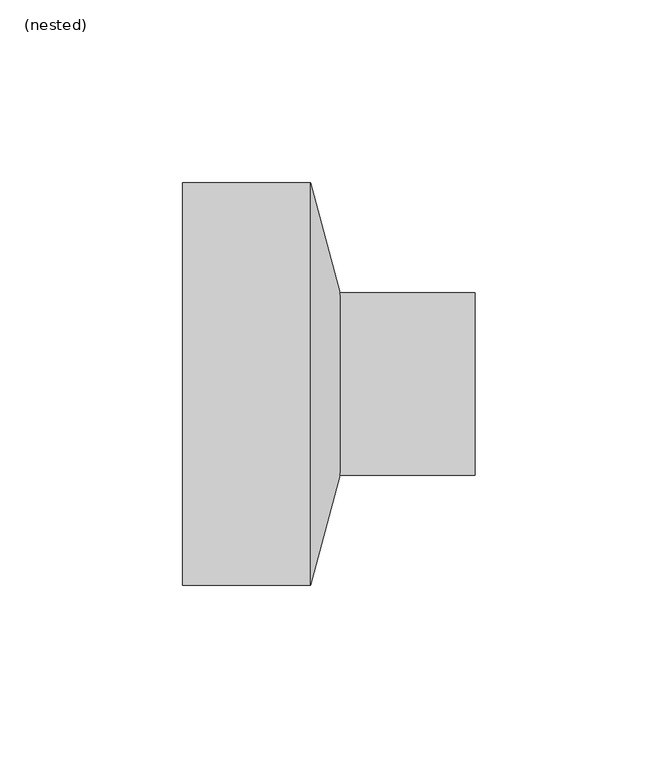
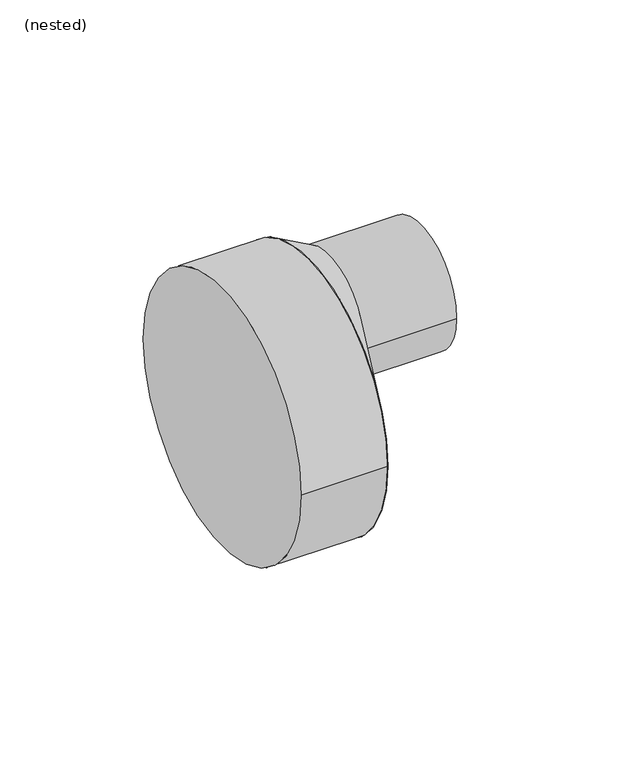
"""IFC4 building model written with IfcOpenShell, lengths in millimetres: pipe fitting geometry, NLRS_52_PIF_UN_PE verloop excentrisch, kort_SH_geb : (nested)."""

import ifcopenshell
import ifcopenshell.guid

model = None  # the IFC model being written
_history = None  # IfcOwnerHistory: only IFC2X3 demands one
_inside = {}  # id of a spatial element -> (the spatial element, [elements in it])
_under = {}  # id of a project, library or spatial element -> (it, [spatial elements below it])
_declared = {}  # id of a project -> (the project, [libraries it declares])
_typed = {}  # id of a type object -> (the type object, [elements of that type])
_made_of = {}  # id of a material, layer set ... -> (it, [elements and type objects made of it])


def new_model(schema):
    """Start an empty IFC model of exactly this schema.

    Asked for "IFC4X3", IfcOpenShell would pick the latest addendum, in which some entities
    have other attributes; the version numbers below select the first issue.
    IFC2X3 requires an IfcOwnerHistory on every rooted entity: one is made here for all.
    """
    global model, _history
    if schema == "IFC4X3":
        model = ifcopenshell.file(schema_version=(4, 3, 0, 0))
    else:
        model = ifcopenshell.file(schema=schema)
    _inside.clear()
    _under.clear()
    _declared.clear()
    _typed.clear()
    _made_of.clear()
    _history = None
    if model.schema == "IFC2X3":
        org = make("IfcOrganization", Name="unknown")
        user = make(
            "IfcPersonAndOrganization",
            ThePerson=make("IfcPerson", FamilyName="unknown"),
            TheOrganization=org,
        )
        app = make(
            "IfcApplication",
            ApplicationDeveloper=org,
            Version="unknown",
            ApplicationFullName="unknown",
            ApplicationIdentifier="unknown",
        )
        _history = make(
            "IfcOwnerHistory",
            OwningUser=user,
            OwningApplication=app,
            ChangeAction="ADDED",
            CreationDate=0,
        )
    return model


def make(cls, **values):
    """One entity of the class cls with the attributes given. An attribute that is None is left unset."""
    return model.create_entity(
        cls, **{name: value for name, value in values.items() if value is not None}
    )


def rooted(cls, **values):
    """An entity with a GlobalId (a new one), such as an element, a storey or a relation."""
    return make(cls, GlobalId=ifcopenshell.guid.new(), OwnerHistory=_history, **values)


def si_unit(unit_type, name, prefix=None):
    """IfcSIUnit, for example si_unit("LENGTHUNIT", "METRE", prefix="MILLI")."""
    return make("IfcSIUnit", UnitType=unit_type, Prefix=prefix, Name=name)


def assignment(units):
    """IfcUnitAssignment: the units of a project."""
    return None if units is None else make("IfcUnitAssignment", Units=units)


def point(xyz):
    """IfcCartesianPoint."""
    return None if xyz is None else make("IfcCartesianPoint", Coordinates=xyz)


def direction(xyz):
    """IfcDirection."""
    return None if xyz is None else make("IfcDirection", DirectionRatios=xyz)


def frame(location, z_axis=None, x_axis=None):
    """IfcAxis2Placement3D, a coordinate frame: its origin and axes. An axis left out is left unset."""
    return make(
        "IfcAxis2Placement3D",
        Location=point(location),
        Axis=direction(z_axis),
        RefDirection=direction(x_axis),
    )


def frame_2d(location, x_axis=None):
    """IfcAxis2Placement2D, a coordinate frame in the plane: its origin and x axis."""
    return make(
        "IfcAxis2Placement2D", Location=point(location), RefDirection=direction(x_axis)
    )


def origin():
    """The frame at (0, 0, 0) with its axes left unset."""
    return frame((0.0, 0.0, 0.0))


def origin_2d():
    """The frame at (0, 0) in the plane with its x axis left unset."""
    return frame_2d((0.0, 0.0))


def place(relative_to, where):
    """IfcLocalPlacement: puts the frame where relative to a parent placement (None: the world)."""
    return make(
        "IfcLocalPlacement", PlacementRelTo=relative_to, RelativePlacement=where
    )


def context(
    kind, dimensions, precision=None, world=None, true_north=None, identifier=None
):
    """IfcGeometricRepresentationContext, for example the 3D "Model" context."""
    return make(
        "IfcGeometricRepresentationContext",
        ContextIdentifier=identifier,
        ContextType=kind,
        CoordinateSpaceDimension=dimensions,
        Precision=precision,
        WorldCoordinateSystem=world,
        TrueNorth=true_north,
    )


def project(units=None, contexts=None):
    """IfcProject with its units and contexts."""
    return rooted(
        "IfcProject",
        Name="project",
        RepresentationContexts=contexts,
        UnitsInContext=assignment(units),
    )


def spatial(cls, under=None, at=None, **own):
    """A site, building, storey or space (cls), placed at a placement, below another one or the project."""
    s = rooted(cls, ObjectPlacement=at, **own)
    if under is not None:
        _under.setdefault(under.id(), (under, []))[1].append(s)
    return s


def circle_curve(where, radius):
    """IfcCircle in the frame where."""
    return make("IfcCircle", Position=where, Radius=radius)


def trimmed(basis, trim1, trim2, sense, master):
    """IfcTrimmedCurve: the piece of a basis curve between two trims."""
    return make(
        "IfcTrimmedCurve",
        BasisCurve=basis,
        Trim1=trim1,
        Trim2=trim2,
        SenseAgreement=sense,
        MasterRepresentation=master,
    )


def segment(curve, same_sense, transition):
    """IfcCompositeCurveSegment."""
    return make(
        "IfcCompositeCurveSegment",
        Transition=transition,
        SameSense=same_sense,
        ParentCurve=curve,
    )


def composite_curve(segments, self_intersect=None):
    """IfcCompositeCurve: segments joined end to end."""
    return make("IfcCompositeCurve", Segments=segments, SelfIntersect=self_intersect)


def outline(outer, holes=None, kind="AREA"):
    """IfcArbitraryClosedProfileDef: a profile drawn as a closed curve; with holes, ...WithVoids."""
    if holes is None:
        return make("IfcArbitraryClosedProfileDef", ProfileType=kind, OuterCurve=outer)
    return make(
        "IfcArbitraryProfileDefWithVoids",
        ProfileType=kind,
        OuterCurve=outer,
        InnerCurves=holes,
    )


def extrude(swept, where, along, depth):
    """IfcExtrudedAreaSolid: the profile swept, set in the frame where, extruded along a direction by depth."""
    return make(
        "IfcExtrudedAreaSolid",
        SweptArea=swept,
        Position=where,
        ExtrudedDirection=direction(along),
        Depth=depth,
    )


def shape(context_of_items, identifier, shape_type, items):
    """IfcShapeRepresentation: the items that make up one representation, for example the "Body"."""
    return make(
        "IfcShapeRepresentation",
        ContextOfItems=context_of_items,
        RepresentationIdentifier=identifier,
        RepresentationType=shape_type,
        Items=items,
    )


def source(mapping_origin, context_of_items, identifier, shape_type, items):
    """IfcRepresentationMap: a shape defined once, which mapped items show again and again."""
    return make(
        "IfcRepresentationMap",
        MappingOrigin=mapping_origin,
        MappedRepresentation=shape(context_of_items, identifier, shape_type, items),
    )


def transform(
    local_origin,
    x_axis=None,
    y_axis=None,
    z_axis=None,
    scale=None,
    scale2=None,
    scale3=None,
    uniform=True,
):
    """IfcCartesianTransformationOperator3D, or its non-uniform kind. x_axis, y_axis, z_axis: its Axis1, 2, 3."""
    if uniform:
        return make(
            "IfcCartesianTransformationOperator3D",
            Axis1=direction(x_axis),
            Axis2=direction(y_axis),
            LocalOrigin=point(local_origin),
            Scale=scale,
            Axis3=direction(z_axis),
        )
    return make(
        "IfcCartesianTransformationOperator3DnonUniform",
        Axis1=direction(x_axis),
        Axis2=direction(y_axis),
        LocalOrigin=point(local_origin),
        Scale=scale,
        Axis3=direction(z_axis),
        Scale2=scale2,
        Scale3=scale3,
    )


def mapped(mapping_source, mapping_target):
    """IfcMappedItem: shows the shape of a source again, moved by a transform."""
    return make(
        "IfcMappedItem", MappingSource=mapping_source, MappingTarget=mapping_target
    )


def made_of(thing, what):
    """Note that an element or type object is made of a material, layer set ...; save() writes the relation."""
    if what is not None:
        _made_of.setdefault(what.id(), (what, []))[1].append(thing)
    return thing


def element(
    cls,
    number,
    at=None,
    inside=None,
    cuts=None,
    type_object=None,
    material=None,
    context=None,
    identifier="Body",
    shape_type=None,
    held_by="IfcProductDefinitionShape",
    body=None,
    shapes=None,
    **own,
):
    """One element of the class cls, such as IfcWall. Its Tag is "e" and its number.

    at: its placement. inside: the storey or other place that contains it. cuts: it is an
    opening in that element (IfcRelVoidsElement). A single representation is given by context,
    identifier, shape_type and body (its items); several are given by shapes. held_by: the class
    of the entity that holds the representations. save() writes the other relations.
    """
    e = rooted(cls, Tag="e%d" % number, ObjectPlacement=at, **own)
    if body is not None:
        shapes = [shape(context, identifier, shape_type, body)]
    if shapes is not None:
        e.Representation = make(held_by, Representations=shapes)
    if inside is not None:
        _inside.setdefault(inside.id(), (inside, []))[1].append(e)
    if cuts is not None:
        rooted(
            "IfcRelVoidsElement", RelatingBuildingElement=cuts, RelatedOpeningElement=e
        )
    if type_object is not None:
        _typed.setdefault(type_object.id(), (type_object, []))[1].append(e)
    return made_of(e, material)


def aggregate(whole, parts):
    """IfcRelAggregates: a whole, such as a stair, and the parts it consists of."""
    return rooted("IfcRelAggregates", RelatingObject=whole, RelatedObjects=parts)


def save(model, path):
    """Write the relations noted so far, then the file.

    IfcRelAggregates (storeys below a building ...), IfcRelContainedInSpatialStructure (elements
    in a storey), IfcRelDefinesByType, IfcRelAssociatesMaterial and IfcRelDeclares: one each for
    every whole, place, type object, material and project.
    """
    for whole, parts in _under.values():
        aggregate(whole, parts)
    for where, things in _inside.values():
        rooted(
            "IfcRelContainedInSpatialStructure",
            RelatedElements=things,
            RelatingStructure=where,
        )
    for kind, things in _typed.values():
        rooted("IfcRelDefinesByType", RelatedObjects=things, RelatingType=kind)
    for what, things in _made_of.values():
        rooted("IfcRelAssociatesMaterial", RelatedObjects=things, RelatingMaterial=what)
    for by, libraries in _declared.values():
        rooted("IfcRelDeclares", RelatingContext=by, RelatedDefinitions=libraries)
    model.write(path)


def plane_surface(at):
    """IfcPlane: the flat surface through the origin of the frame at, square to its z axis."""
    return make("IfcPlane", Position=at)


def spline_surface(u_degree, v_degree, points, u_multiplicities, v_multiplicities, u_knots, v_knots, weights=None):
    """IfcBSplineSurfaceWithKnots; with weights, IfcRationalBSplineSurfaceWithKnots. points: one row for each step in u."""
    own = dict(
        UDegree=u_degree,
        VDegree=v_degree,
        ControlPointsList=[[point(p) for p in row] for row in points],
        SurfaceForm="UNSPECIFIED",
        UClosed=False,
        VClosed=False,
        SelfIntersect=False,
        UMultiplicities=u_multiplicities,
        VMultiplicities=v_multiplicities,
        UKnots=u_knots,
        VKnots=v_knots,
        KnotSpec="UNSPECIFIED",
    )
    if weights is None:
        return make("IfcBSplineSurfaceWithKnots", **own)
    return make("IfcRationalBSplineSurfaceWithKnots", WeightsData=weights, **own)


def advanced_brep(points, edges, surfaces, faces):
    """IfcAdvancedBrep: a solid bounded by faces that lie on surfaces and meet in shared edges.

    An edge is (start, end): straight between two places in points (the first is 0);
    or (start, end, curve); or (start, end, curve, False) where it runs against its curve.
    A face is (place in surfaces, loops), or (place, loops, False) where it looks against
    its surface's normal. A loop lists edges by number (the first is 1), with a minus sign
    where the edge is run from its end to its start. The first loop is the outer one.
    """
    corners = [point(p) for p in points]
    vertices = [make("IfcVertexPoint", VertexGeometry=c) for c in corners]
    made = []
    for start, end, *more in edges:
        made.append(
            make(
                "IfcEdgeCurve",
                EdgeStart=vertices[start],
                EdgeEnd=vertices[end],
                EdgeGeometry=more[0] if more else make("IfcPolyline", Points=[corners[start], corners[end]]),
                SameSense=more[1] if len(more) > 1 else True,
            )
        )
    hull = []
    for where, loops, *sense in faces:
        bounds = []
        for j, loop in enumerate(loops):
            ring = [make("IfcOrientedEdge", EdgeElement=made[abs(k) - 1], Orientation=k > 0) for k in loop]
            bounds.append(
                make(
                    "IfcFaceOuterBound" if j == 0 else "IfcFaceBound",
                    Bound=make("IfcEdgeLoop", EdgeList=ring),
                    Orientation=True,
                )
            )
        hull.append(make("IfcAdvancedFace", Bounds=bounds, FaceSurface=surfaces[where], SameSense=sense[0] if sense else True))
    return make("IfcAdvancedBrep", Outer=make("IfcClosedShell", CfsFaces=hull))


def nested_941dfa96(model_context):
    return source(origin(), model_context, "Body", "SolidModel", [
        advanced_brep(
        [(4.0, -25.0, 29.0), (4.0, 25.0, 29.0), (-4.0, -55.0, 0.0), (-4.0, 55.0, 0.0)],
        [
            (0, 1, circle_curve(frame((4.0, 0.0, 29.0), z_axis=(1.0, 0.0, 0.0), x_axis=(0.0, 1.0, 0.0)), 25.0)),
            (1, 0, circle_curve(frame((4.0, 0.0, 29.0), z_axis=(1.0, 0.0, 0.0), x_axis=(0.0, 1.0, 0.0)), 25.0)),
            (2, 3, circle_curve(frame((-4.0, 0.0, 0.0), z_axis=(-1.0, 0.0, 0.0), x_axis=(0.0, 1.0, 0.0)), 55.0)),
            (3, 2, circle_curve(frame((-4.0, 0.0, 0.0), z_axis=(-1.0, 0.0, 0.0), x_axis=(0.0, 1.0, 0.0)), 55.0)),
            (3, 1),
            (0, 2),
        ],
        [
            plane_surface(frame((4.0, 0.0, 29.0), z_axis=(1.0, 0.0, 0.0), x_axis=(0.0, 0.0, -1.0))),
            plane_surface(frame((-4.0, 0.0, 0.0), z_axis=(-1.0, 0.0, 0.0), x_axis=(0.0, 0.0, -1.0))),
            spline_surface(2, 1, [[(-4.0, -55.0, 0.0), (4.0, -25.0, 29.0)], [(-4.0, -55.0, -55.0), (4.0, -25.0, 4.0)], [(-4.0, 0.0, -55.0), (4.0, 0.0, 4.0)], [(-4.0, 55.0, -55.0), (4.0, 25.0, 4.0)], [(-4.0, 55.0, 0.0), (4.0, 25.0, 29.0)]], [3, 2, 3], [2, 2], [0.0, 1.0, 2.0], [0.0, 1.0], weights=[[1.0, 1.0], [0.7071067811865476, 0.7071067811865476], [1.0, 1.0], [0.7071067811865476, 0.7071067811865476], [1.0, 1.0]]),
            spline_surface(2, 1, [[(-4.0, 55.0, 0.0), (4.0, 25.0, 29.0)], [(-4.0, 55.0, 55.0), (4.0, 25.0, 54.0)], [(-4.0, 0.0, 55.0), (4.0, 0.0, 54.0)], [(-4.0, -55.0, 55.0), (4.0, -25.0, 54.0)], [(-4.0, -55.0, 0.0), (4.0, -25.0, 29.0)]], [3, 2, 3], [2, 2], [0.0, 1.0, 2.0], [0.0, 1.0], weights=[[1.0, 1.0], [0.7071067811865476, 0.7071067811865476], [1.0, 1.0], [0.7071067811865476, 0.7071067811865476], [1.0, 1.0]]),
        ],
        [
            (0, [[1, 2]]),
            (1, [[3, 4]]),
            (2, [[-4, 5, -1, 6]]),
            (3, [[-3, -6, -2, -5]]),
        ],
    ),
        extrude(outline(composite_curve([segment(trimmed(circle_curve(frame_2d((0.0, 29.0)), 25.0), [point((-25.0, 29.0))], [point((25.0, 29.0))], False, "CARTESIAN"), True, "CONTINUOUS"), segment(trimmed(circle_curve(frame_2d((0.0, 29.0)), 25.0), [point((25.0, 29.0))], [point((-25.0, 29.0))], False, "CARTESIAN"), True, "CONTINUOUS")], self_intersect=False)), frame((4.0, 0.0, 0.0), z_axis=(1.0, 0.0, 0.0), x_axis=(0.0, 1.0, 0.0)), (0.0, 0.0, 1.0), 37.0),
        extrude(outline(composite_curve([segment(trimmed(circle_curve(origin_2d(), 55.0), [point((-55.0, 0.0))], [point((55.0, 0.0))], False, "CARTESIAN"), True, "CONTINUOUS"), segment(trimmed(circle_curve(origin_2d(), 55.0), [point((55.0, 0.0))], [point((-55.0, 0.0))], False, "CARTESIAN"), True, "CONTINUOUS")], self_intersect=False)), frame((-39.0, 0.0, 0.0), z_axis=(1.0, 0.0, 0.0), x_axis=(0.0, 1.0, 0.0)), (0.0, 0.0, 1.0), 35.0),
    ])


if __name__ == "__main__":
    model = new_model("IFC4")
    model_context = context("Model", 3, world=origin())
    ifc_project = project(units=[si_unit("LENGTHUNIT", "METRE", prefix="MILLI")], contexts=[model_context])
    site = spatial("IfcSite", under=ifc_project)
    building = spatial("IfcBuilding", under=site)
    placement = place(None, origin())
    nested_shape = nested_941dfa96(model_context)
    element("IfcPipeFitting", 1, ObjectType="NLRS_52_PIF_UN_PE verloop excentrisch, kort_SH_geb : (nested)", at=placement, inside=building, context=model_context, shape_type="MappedRepresentation", body=[
        mapped(nested_shape, transform((0.0, 0.0, 0.0), x_axis=(1.0, 0.0, 0.0), y_axis=(0.0, 1.0, 0.0), z_axis=(0.0, 0.0, 1.0))),
    ])
    save(model, "model.ifc")
